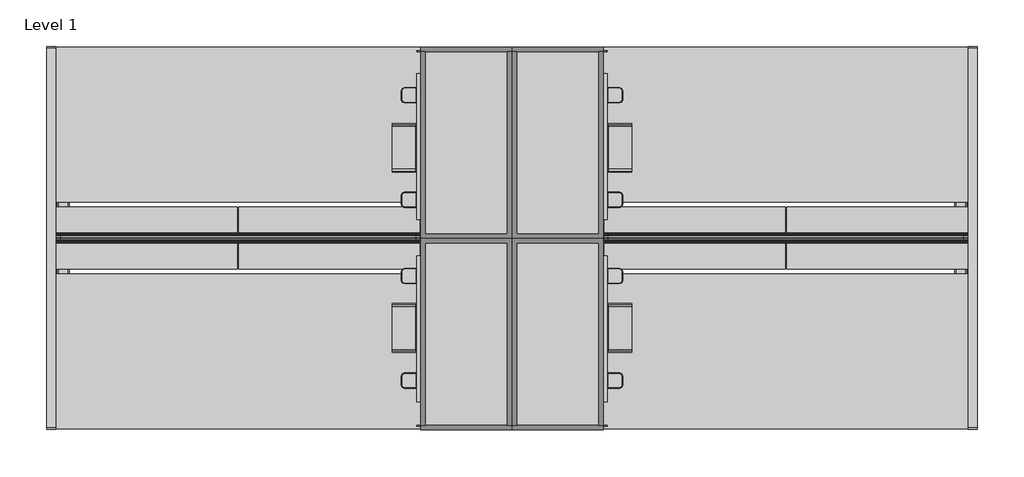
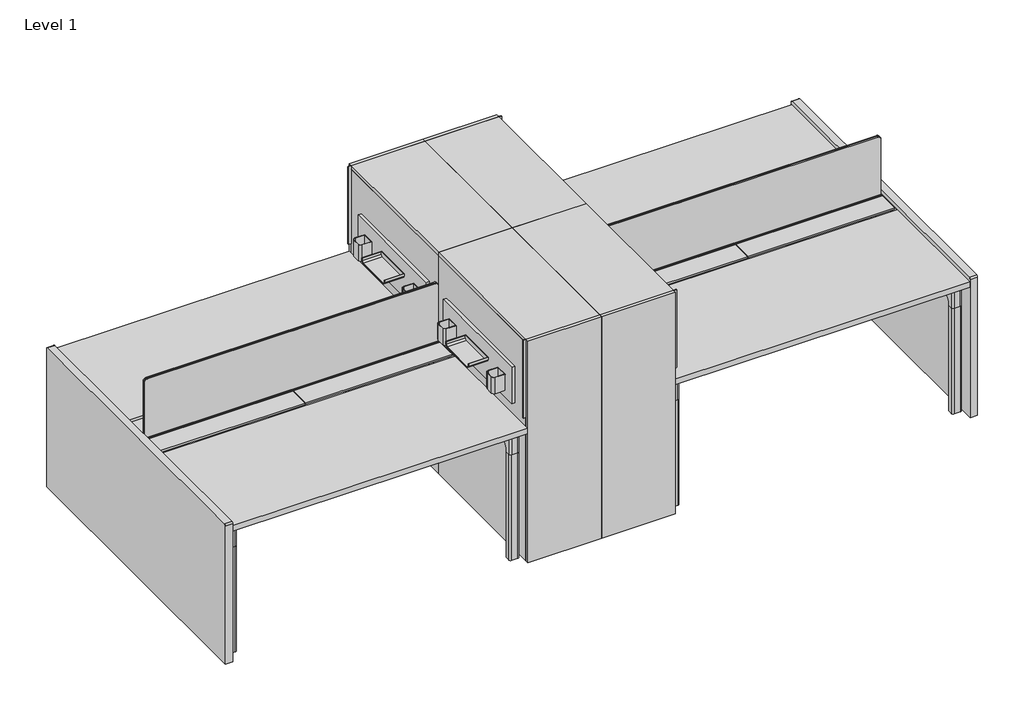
# One storey, incomplete: 24 furniture elements.
"""IFC4 building model written with IfcOpenShell, lengths in millimetres."""

from ifc_helpers import new_model, si_unit, origin, place, context, project, spatial, transform, mapped, element, save
from components import furniture_30d_60w_475c9fa1, furniture_30d_60w_e822043c, furniture_30h_63w_c6021e88, haworth_belong_tile_8h_24w_d500282b, haworth_belong_tile_8h_24w_e348bec2, haworth_belong_tool_cup_tool_cup_314b2932, haworth_belong_tool_cup_tool_cup_d6d42e5e, haworth_belong_tool_trayshelf_hanging_mini_shelf_abdf5a44, haworth_belong_tool_trayshelf_hanging_mini_shelf_a4f2ccf3, haworth_besidestorage_pantry_limited_ed2d5c58, haworth_besidestorage_pantry_limited_d58f22f9

model = new_model("IFC4")

# Units and contexts
model_context = context("Model", 3, world=origin())
ifc_project = project(units=[si_unit("LENGTHUNIT", "METRE", prefix="MILLI")], contexts=[model_context])

# Site, building, storey
site = spatial("IfcSite", under=ifc_project)
building = spatial("IfcBuilding", under=site)
storey = spatial("IfcBuildingStorey", under=building, Name="Level 1", Elevation=0.0)

# Furniture
placement = place(None, origin())
furniture_30d_60w_shape = furniture_30d_60w_475c9fa1(model_context)
element("IfcFurniture", 1, ObjectType="Haworth_Intuity_Benching_DoubleSided : 30d 60w", at=placement, inside=storey, context=model_context, shape_type="MappedRepresentation", body=[
    mapped(furniture_30d_60w_shape, transform((445.8144182, 3901.7699711, 0.0), x_axis=(1.0, 0.0, 0.0), y_axis=(0.0, 1.0, 0.0), z_axis=(0.0, 0.0, 1.0))),
])
furniture_30d_60w_2_shape = furniture_30d_60w_e822043c(model_context)
element("IfcFurniture", 2, ObjectType="Haworth_Intuity_Benching_DoubleSided : 30d 60w", at=placement, inside=storey, context=model_context, shape_type="MappedRepresentation", body=[
    mapped(furniture_30d_60w_2_shape, transform((-1408.3855818, 3901.7699711, 0.0), x_axis=(-1.0, 0.0, 0.0), y_axis=(0.0, -1.0, 0.0), z_axis=(0.0, 0.0, 1.0))),
])
furniture_30h_63w_shape = furniture_30h_63w_c6021e88(model_context)
element("IfcFurniture", 3, ObjectType="Haworth_BelongGallaryEndPanel_Limited : 30h 63w", at=placement, inside=storey, context=model_context, shape_type="MappedRepresentation", body=[
    mapped(furniture_30h_63w_shape, transform((1442.7644182, 3734.6810382, 0.0), x_axis=(0.0, 1.0, 0.0), y_axis=(-1.0, 0.0, 0.0), z_axis=(0.0, 0.0, 1.0))),
])
element("IfcFurniture", 4, ObjectType="Haworth_BelongGallaryEndPanel_Limited : 30h 63w", at=placement, inside=storey, context=model_context, shape_type="MappedRepresentation", body=[
    mapped(furniture_30h_63w_shape, transform((-2405.3355818, 3734.6810382, 0.0), x_axis=(0.0, 1.0, 0.0), y_axis=(-1.0, 0.0, 0.0), z_axis=(0.0, 0.0, 1.0))),
])
haworth_belong_tile_8h_24w_shape = haworth_belong_tile_8h_24w_d500282b(model_context)
element("IfcFurniture", 5, ObjectType="Haworth_Belong_Tile : 8h 24w", at=placement, inside=storey, context=model_context, shape_type="MappedRepresentation", body=[
    mapped(haworth_belong_tile_8h_24w_shape, transform((-91.5542652, 3321.0164946, 0.0), x_axis=(0.0, 1.0, 0.0), y_axis=(-1.0, 0.0, 0.0), z_axis=(0.0, 0.0, 1.0))),
])
element("IfcFurniture", 6, ObjectType="Haworth_Belong_Tile : 8h 24w", at=placement, inside=storey, context=model_context, shape_type="MappedRepresentation", body=[
    mapped(haworth_belong_tile_8h_24w_shape, transform((-871.0168984, 4083.0164946, 0.0), x_axis=(0.0, -1.0, 0.0), y_axis=(1.0, 0.0, 0.0), z_axis=(0.0, 0.0, 1.0))),
])
haworth_belong_tile_8h_24w_2_shape = haworth_belong_tile_8h_24w_e348bec2(model_context)
element("IfcFurniture", 7, ObjectType="Haworth_Belong_Tile : 8h 24w", at=placement, inside=storey, context=model_context, shape_type="MappedRepresentation", body=[
    mapped(haworth_belong_tile_8h_24w_2_shape, transform((-91.5542652, 4083.0164946, 0.0), x_axis=(0.0, -1.0, 0.0), y_axis=(1.0, 0.0, 0.0), z_axis=(0.0, 0.0, 1.0))),
])
element("IfcFurniture", 8, ObjectType="Haworth_Belong_Tile : 8h 24w", at=placement, inside=storey, context=model_context, shape_type="MappedRepresentation", body=[
    mapped(haworth_belong_tile_8h_24w_2_shape, transform((-871.0168984, 3321.0164946, 0.0), x_axis=(0.0, 1.0, 0.0), y_axis=(-1.0, 0.0, 0.0), z_axis=(0.0, 0.0, 1.0))),
])
haworth_belong_tool_cup_tool_cup_shape = haworth_belong_tool_cup_tool_cup_314b2932(model_context)
element("IfcFurniture", 9, ObjectType="Haworth_Belong_Tool_Cup : Tool Cup", at=placement, inside=storey, context=model_context, shape_type="MappedRepresentation", body=[
    mapped(haworth_belong_tool_cup_tool_cup_shape, transform((-82.8230152, 2940.4605158, 850.9), x_axis=(0.0, 1.0, 0.0), y_axis=(-1.0, 0.0, 0.0), z_axis=(0.0, 0.0, 1.0))),
])
element("IfcFurniture", 10, ObjectType="Haworth_Belong_Tool_Cup : Tool Cup", at=placement, inside=storey, context=model_context, shape_type="MappedRepresentation", body=[
    mapped(haworth_belong_tool_cup_tool_cup_shape, transform((-82.8230152, 3377.7057196, 850.9), x_axis=(0.0, 1.0, 0.0), y_axis=(-1.0, 0.0, 0.0), z_axis=(0.0, 0.0, 1.0))),
])
element("IfcFurniture", 11, ObjectType="Haworth_Belong_Tool_Cup : Tool Cup", at=placement, inside=storey, context=model_context, shape_type="MappedRepresentation", body=[
    mapped(haworth_belong_tool_cup_tool_cup_shape, transform((-879.7481484, 4463.5724733, 850.9), x_axis=(0.0, -1.0, 0.0), y_axis=(1.0, 0.0, 0.0), z_axis=(0.0, 0.0, 1.0))),
])
element("IfcFurniture", 12, ObjectType="Haworth_Belong_Tool_Cup : Tool Cup", at=placement, inside=storey, context=model_context, shape_type="MappedRepresentation", body=[
    mapped(haworth_belong_tool_cup_tool_cup_shape, transform((-879.7481484, 4026.3272695, 850.9), x_axis=(0.0, -1.0, 0.0), y_axis=(1.0, 0.0, 0.0), z_axis=(0.0, 0.0, 1.0))),
])
haworth_belong_tool_cup_tool_cup_2_shape = haworth_belong_tool_cup_tool_cup_d6d42e5e(model_context)
element("IfcFurniture", 13, ObjectType="Haworth_Belong_Tool_Cup : Tool Cup", at=placement, inside=storey, context=model_context, shape_type="MappedRepresentation", body=[
    mapped(haworth_belong_tool_cup_tool_cup_2_shape, transform((-82.8230152, 4463.5724733, 850.9), x_axis=(0.0, -1.0, 0.0), y_axis=(1.0, 0.0, 0.0), z_axis=(0.0, 0.0, 1.0))),
])
element("IfcFurniture", 14, ObjectType="Haworth_Belong_Tool_Cup : Tool Cup", at=placement, inside=storey, context=model_context, shape_type="MappedRepresentation", body=[
    mapped(haworth_belong_tool_cup_tool_cup_2_shape, transform((-82.8230152, 4026.3272695, 850.9), x_axis=(0.0, -1.0, 0.0), y_axis=(1.0, 0.0, 0.0), z_axis=(0.0, 0.0, 1.0))),
])
element("IfcFurniture", 15, ObjectType="Haworth_Belong_Tool_Cup : Tool Cup", at=placement, inside=storey, context=model_context, shape_type="MappedRepresentation", body=[
    mapped(haworth_belong_tool_cup_tool_cup_2_shape, transform((-879.7481484, 2940.4605158, 850.9), x_axis=(0.0, 1.0, 0.0), y_axis=(-1.0, 0.0, 0.0), z_axis=(0.0, 0.0, 1.0))),
])
element("IfcFurniture", 16, ObjectType="Haworth_Belong_Tool_Cup : Tool Cup", at=placement, inside=storey, context=model_context, shape_type="MappedRepresentation", body=[
    mapped(haworth_belong_tool_cup_tool_cup_2_shape, transform((-879.7481484, 3377.7057196, 850.9), x_axis=(0.0, 1.0, 0.0), y_axis=(-1.0, 0.0, 0.0), z_axis=(0.0, 0.0, 1.0))),
])
haworth_belong_tool_trayshelf_hanging_mini_shelf_shape = haworth_belong_tool_trayshelf_hanging_mini_shelf_abdf5a44(model_context)
element("IfcFurniture", 17, ObjectType="Haworth_Belong_Tool_TrayShelf : Hanging Mini Shelf", at=placement, inside=storey, context=model_context, shape_type="MappedRepresentation", body=[
    mapped(haworth_belong_tool_trayshelf_hanging_mini_shelf_shape, transform((-82.8230152, 3160.9418971, 914.4), x_axis=(0.0, 1.0, 0.0), y_axis=(-1.0, 0.0, 0.0), z_axis=(0.0, 0.0, 1.0))),
])
element("IfcFurniture", 18, ObjectType="Haworth_Belong_Tool_TrayShelf : Hanging Mini Shelf", at=placement, inside=storey, context=model_context, shape_type="MappedRepresentation", body=[
    mapped(haworth_belong_tool_trayshelf_hanging_mini_shelf_shape, transform((-879.7481484, 4243.0910921, 914.4), x_axis=(0.0, -1.0, 0.0), y_axis=(1.0, 0.0, 0.0), z_axis=(0.0, 0.0, 1.0))),
])
haworth_belong_tool_trayshelf_hanging_mini_shelf_2_shape = haworth_belong_tool_trayshelf_hanging_mini_shelf_a4f2ccf3(model_context)
element("IfcFurniture", 19, ObjectType="Haworth_Belong_Tool_TrayShelf : Hanging Mini Shelf", at=placement, inside=storey, context=model_context, shape_type="MappedRepresentation", body=[
    mapped(haworth_belong_tool_trayshelf_hanging_mini_shelf_2_shape, transform((-82.8230152, 4243.0910921, 914.4), x_axis=(0.0, -1.0, 0.0), y_axis=(1.0, 0.0, 0.0), z_axis=(0.0, 0.0, 1.0))),
])
element("IfcFurniture", 20, ObjectType="Haworth_Belong_Tool_TrayShelf : Hanging Mini Shelf", at=placement, inside=storey, context=model_context, shape_type="MappedRepresentation", body=[
    mapped(haworth_belong_tool_trayshelf_hanging_mini_shelf_2_shape, transform((-879.7481484, 3160.9418971, 914.4), x_axis=(0.0, 1.0, 0.0), y_axis=(-1.0, 0.0, 0.0), z_axis=(0.0, 0.0, 1.0))),
])
haworth_besidestorage_pantry_limited_shape = haworth_besidestorage_pantry_limited_ed2d5c58(model_context)
element("IfcFurniture", 21, ObjectType="Haworth_BesideStorage_Pantry_Limited : 31.5d 15w 48h", at=placement, inside=storey, context=model_context, shape_type="MappedRepresentation", body=[
    mapped(haworth_besidestorage_pantry_limited_shape, transform((-671.7855818, 3699.6352446, 0.0), x_axis=(1.0, 0.0, 0.0), y_axis=(0.0, 1.0, 0.0), z_axis=(0.0, 0.0, 1.0))),
])
element("IfcFurniture", 22, ObjectType="Haworth_BesideStorage_Pantry_Limited : 31.5d 15w 48h", at=placement, inside=storey, context=model_context, shape_type="MappedRepresentation", body=[
    mapped(haworth_besidestorage_pantry_limited_shape, transform((-290.7855818, 3699.6352446, 0.0), x_axis=(-1.0, 0.0, 0.0), y_axis=(0.0, -1.0, 0.0), z_axis=(0.0, 0.0, 1.0))),
])
haworth_besidestorage_pantry_limited_2_shape = haworth_besidestorage_pantry_limited_d58f22f9(model_context)
element("IfcFurniture", 23, ObjectType="Haworth_BesideStorage_Pantry_Limited : 31.5d 15w 48h", at=placement, inside=storey, context=model_context, shape_type="MappedRepresentation", body=[
    mapped(haworth_besidestorage_pantry_limited_2_shape, transform((-290.7855818, 3699.6352446, 0.0), x_axis=(-1.0, 0.0, 0.0), y_axis=(0.0, -1.0, 0.0), z_axis=(0.0, 0.0, 1.0))),
])
element("IfcFurniture", 24, ObjectType="Haworth_BesideStorage_Pantry_Limited : 31.5d 15w 48h", at=placement, inside=storey, context=model_context, shape_type="MappedRepresentation", body=[
    mapped(haworth_besidestorage_pantry_limited_2_shape, transform((-671.7855818, 3699.6352446, 0.0), x_axis=(1.0, 0.0, 0.0), y_axis=(0.0, 1.0, 0.0), z_axis=(0.0, 0.0, 1.0))),
])

save(model, "model.ifc")
